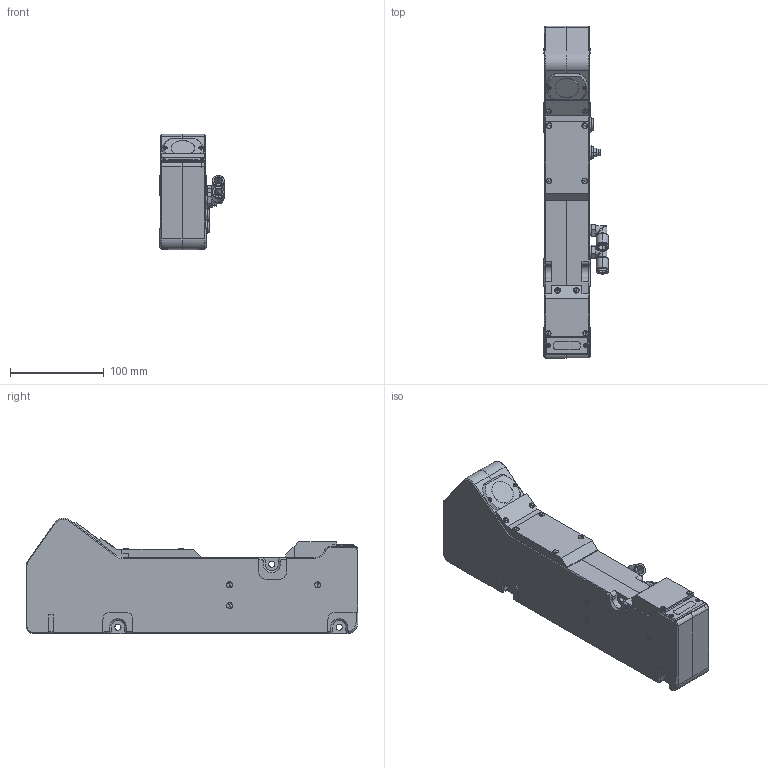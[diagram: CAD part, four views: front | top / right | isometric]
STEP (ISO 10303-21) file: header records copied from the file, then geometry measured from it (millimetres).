
FILE_DESCRIPTION (( 'STEP AP214' ), '1' );
FILE_NAME ('RF 625 _240_290_Ñá.STEP', '2015-09-03T08:19:55', ( 'Admin' ), ( '' ), 'SwSTEP 2.0', 'SolidWorks 2012', '' );
FILE_SCHEMA (( 'AUTOMOTIVE_DESIGN' ));
Length unit declared in the file: millimetre
Products named in the file (22): Âèíò_Ì2õ4; Âèíò_Ì3x10 â ïîòàé; 俶 620.03.020-01; RF049.028_240_290_Ñîïëî3; 妈眚_󉱴_鲨腠漯; Raz_09_0412_80_04; RF 620.28._署赅 2; 妈眚_󉱮6_鲨腠漯; Øàéáà ïðóæèííàÿ_3; 妈眚_󉱭0_鲨腠漯; Âèíò_Ì2õ6; Ãàéêà Raz_09_0427_80_08; Raz_09_0427_80_08; RF 620.028_240_290_署赅 筱铍; RF049.028_栺樏鋋; RF049.028_Ñîïëî2; RF049.028_240_290_Ñîïëî1; FESTO QSL_F_G1''8_8; RF 620.28._Ðàìêà îêíà1; RF 620.28._Ðàìêà îêíà2; RF 620.028_240_290_扻豵鵨 鵽鎀; RF 625 _240_290_栖
Assembly tree (73 placements, depth 2):
  RF 625 _240_290_栖
    RF 620.028_240_290_扻豵鵨 鵽鎀
    RF 620.28._Ðàìêà îêíà2
    RF 620.28._Ðàìêà îêíà1
    FESTO QSL_F_G1''8_8  x2
    RF049.028_240_290_Ñîïëî1
    RF049.028_Ñîïëî2
    RF049.028_栺樏鋋
    RF 620.028_240_290_署赅 筱铍
    Raz_09_0427_80_08
    Ãàéêà Raz_09_0427_80_08  x3
    Âèíò_Ì2õ6  x14
    妈眚_󉱭0_鲨腠漯  x5
    Øàéáà ïðóæèííàÿ_3  x12
    妈眚_󉱮6_鲨腠漯  x10
    RF 620.28._署赅 2
    Raz_09_0412_80_04  x2
    妈眚_󉱴_鲨腠漯  x7
    RF049.028_240_290_Ñîïëî3
    俶 620.03.020-01
    Âèíò_Ì3x10 â ïîòàé  x3
    Âèíò_Ì2õ4  x4
Bounding box: 69.3 x 354 x 123 mm (x, y, z)
Volume: 530349.5 mm3; surface area: 271234.6 mm2
Topology: 73 solids, 73 shells, 2272 faces, 5464 edges, 3446 vertices
Faces by surface type: plane 968, cylinder 879, cone 351, torus 70, bspline 4
Entity records: 50199 total; most frequent: CARTESIAN_POINT 8152, DIRECTION 8031, ORIENTED_EDGE 7202, EDGE_CURVE 3601, AXIS2_PLACEMENT_3D 3000, VERTEX_POINT 2291, LINE 2031, VECTOR 2031
